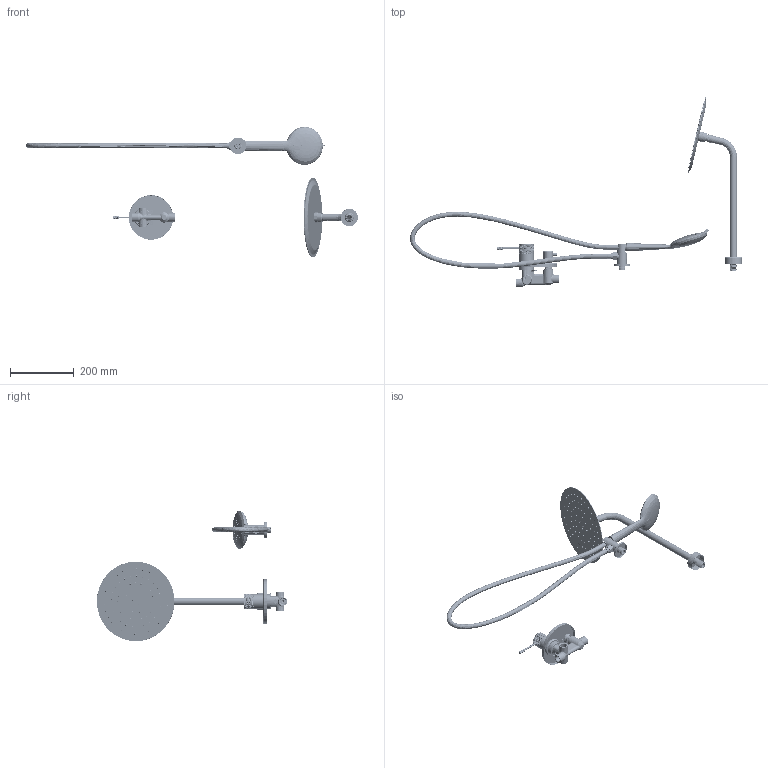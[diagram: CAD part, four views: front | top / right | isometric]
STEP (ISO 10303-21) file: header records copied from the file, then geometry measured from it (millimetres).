
FILE_DESCRIPTION((''),'2;1');
FILE_NAME('1386651_ASM_ASM','2022-11-30T',('Administrator'),(''),'PRO/ENGINEER BY PARAMETRIC TECHNOLOGY CORPORATION, 2015240','PRO/ENGINEER BY PARAMETRIC TECHNOLOGY CORPORATION, 2015240','');
FILE_SCHEMA(('CONFIG_CONTROL_DESIGN'));
Products named in the file (48): 513811-0122_1; 513811-0322_1; 61511942_1; 513812-0200_1; 60701541_1; 518084-0322_1; 61812000_1; 60700544_1; 513822-0300_1; 61822500_1; 61609942_1; 61610942_1; 61822500_ASM_2_ASM; 61505742_1; 7609314-0100_1; 7609313-0200_1; 61109212_1; 7609314-0300_1; 60931400_ASM_1_ASM; 61100112_1; 61800800_1; 7609072-0100_1; 61102812_1; 7609072-0300_1; 60907200_ASM_1_ASM; 61801641_1; 61802000_1; 7603024-0100_1; 7603024-0200_1; 7603024-0300_1; 7603024-0400_1; 7603024-0500_1; 7603024-0600_1; 7603024-0700_1; 60302400_ASM_1_ASM; 61300300_1; 61501742_1; 61701500_11; MANIFOLD_SOLID_BREP_496900; MANIFOLD_SOLID_BREP_520448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
Assembly tree (47 placements, depth 4):
  1386651_ASM_ASM
    1386600_ASM_13_ASM
      513811-0122_1
      513811-0322_1
      61511942_1
      513812-0200_1
      60701541_1
      518084-0322_1
      61812000_1
      60700544_1
      513822-0300_1
      61822500_ASM_2_ASM
        61822500_1
        61609942_1
        61610942_1
      61505742_1
      60931400_ASM_1_ASM
        7609314-0100_1
        7609313-0200_1
        61109212_1
        7609314-0300_1
      61100112_1
      61800800_1
      60907200_ASM_1_ASM
        7609072-0100_1
        61102812_1
        7609072-0300_1
      61801641_1
      61802000_1
      60302400_ASM_1_ASM
        7603024-0100_1
        7603024-0200_1
        7603024-0300_1
        7603024-0400_1
        7603024-0500_1
        7603024-0600_1
        7603024-0700_1
      61300300_1
      61501742_1
      61701500_11
      60111200_2_ASM
        MANIFOLD_SOLID_BREP_496900
        MANIFOLD_SOLID_BREP_520448
      61800900_ASM_2_ASM
        61800900_2
        09-S0_2
      7656003-0100_1
      60188200_1
Bounding box: 1043.55 x 597.93 x 410 mm (x, y, z)
Volume: 1007277 mm3; surface area: 567244 mm2
Topology: 41 solids, 75 shells, 11666 faces, 26696 edges, 15375 vertices
Faces by surface type: bspline 6377, cylinder 2801, plane 1347, cone 575, torus 504, revolution 29, sphere 23, extrusion 10
Entity records: 496996 total; most frequent: CARTESIAN_POINT 288456, ORIENTED_EDGE 53156, EDGE_CURVE 26648, DIRECTION 23962, B_SPLINE_CURVE_WITH_KNOTS 18173, VERTEX_POINT 15375, EDGE_LOOP 12331, FACE_OUTER_BOUND 11666
